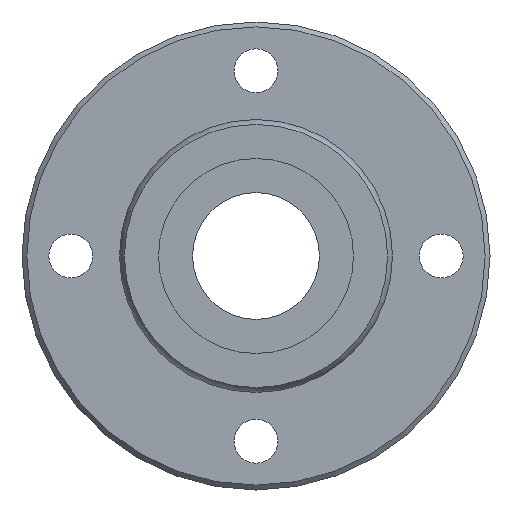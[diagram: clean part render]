
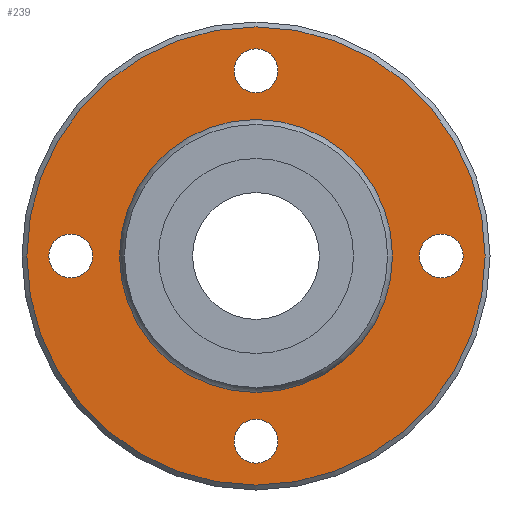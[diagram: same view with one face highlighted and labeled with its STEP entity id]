
A CAD part, left-side view. The second image highlights one B-rep face of the part: STEP entity #239.
In plain terms, the highlighted planar face has unit normal (-1, 0, 0).
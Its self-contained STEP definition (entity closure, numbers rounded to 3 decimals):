
#164=CARTESIAN_POINT('',(30.,0.,23.5));
#165=VERTEX_POINT('',#164);
#166=CARTESIAN_POINT('',(30.,0.0,0.0));
#167=DIRECTION('',(1.0,0.0,0.0));
#168=DIRECTION('',(0.0,0.0,-1.0));
#169=AXIS2_PLACEMENT_3D('',#166,#167,#168);
#170=CIRCLE('',#169,23.5);
#171=EDGE_CURVE('',#165,#165,#170,.T.);
#176=CARTESIAN_POINT('',(30.,0.0,18.887));
#177=DIRECTION('',(-1.0,0.0,0.0));
#178=DIRECTION('',(0.0,0.0,1.0));
#179=AXIS2_PLACEMENT_3D('',#176,#177,#178);
#180=PLANE('',#179);
#181=ORIENTED_EDGE('',*,*,#171,.F.);
#182=EDGE_LOOP('',(#181));
#183=FACE_OUTER_BOUND('',#182,.T.);
#184=CARTESIAN_POINT('',(30.,0.0,13.773));
#185=VERTEX_POINT('',#184);
#186=CARTESIAN_POINT('',(30.0,0.0,0.0));
#187=DIRECTION('',(-1.0,0.0,0.0));
#188=DIRECTION('',(0.0,0.0,1.0));
#189=AXIS2_PLACEMENT_3D('',#186,#187,#188);
#190=CIRCLE('',#189,13.773);
#191=EDGE_CURVE('',#185,#185,#190,.T.);
#192=ORIENTED_EDGE('',*,*,#191,.F.);
#193=EDGE_LOOP('',(#192));
#194=FACE_BOUND('',#193,.T.);
#195=CARTESIAN_POINT('',(30.,-21.25,0.));
#196=VERTEX_POINT('',#195);
#197=CARTESIAN_POINT('',(30.,-19.0,0.));
#198=DIRECTION('',(1.0,0.0,0.0));
#199=DIRECTION('',(0.0,1.0,0.0));
#200=AXIS2_PLACEMENT_3D('',#197,#198,#199);
#201=CIRCLE('',#200,2.25);
#202=EDGE_CURVE('',#196,#196,#201,.T.);
#203=ORIENTED_EDGE('',*,*,#202,.T.);
#204=EDGE_LOOP('',(#203));
#205=FACE_BOUND('',#204,.T.);
#206=CARTESIAN_POINT('',(30.,16.75,0.));
#207=VERTEX_POINT('',#206);
#208=CARTESIAN_POINT('',(30.,19.0,0.));
#209=DIRECTION('',(1.0,0.0,0.0));
#210=DIRECTION('',(0.0,1.0,0.0));
#211=AXIS2_PLACEMENT_3D('',#208,#209,#210);
#212=CIRCLE('',#211,2.25);
#213=EDGE_CURVE('',#207,#207,#212,.T.);
#214=ORIENTED_EDGE('',*,*,#213,.T.);
#215=EDGE_LOOP('',(#214));
#216=FACE_BOUND('',#215,.T.);
#217=CARTESIAN_POINT('',(30.,-2.25,19.0));
#218=VERTEX_POINT('',#217);
#219=CARTESIAN_POINT('',(30.,0.,19.0));
#220=DIRECTION('',(1.0,0.0,0.0));
#221=DIRECTION('',(0.0,1.0,0.0));
#222=AXIS2_PLACEMENT_3D('',#219,#220,#221);
#223=CIRCLE('',#222,2.25);
#224=EDGE_CURVE('',#218,#218,#223,.T.);
#225=ORIENTED_EDGE('',*,*,#224,.T.);
#226=EDGE_LOOP('',(#225));
#227=FACE_BOUND('',#226,.T.);
#228=CARTESIAN_POINT('',(30.,-2.25,-19.0));
#229=VERTEX_POINT('',#228);
#230=CARTESIAN_POINT('',(30.,0.,-19.0));
#231=DIRECTION('',(1.0,0.0,0.0));
#232=DIRECTION('',(0.0,1.0,0.0));
#233=AXIS2_PLACEMENT_3D('',#230,#231,#232);
#234=CIRCLE('',#233,2.25);
#235=EDGE_CURVE('',#229,#229,#234,.T.);
#236=ORIENTED_EDGE('',*,*,#235,.T.);
#237=EDGE_LOOP('',(#236));
#238=FACE_BOUND('',#237,.T.);
#239=ADVANCED_FACE('',(#183,#194,#205,#216,#227,#238),#180,.T.);
